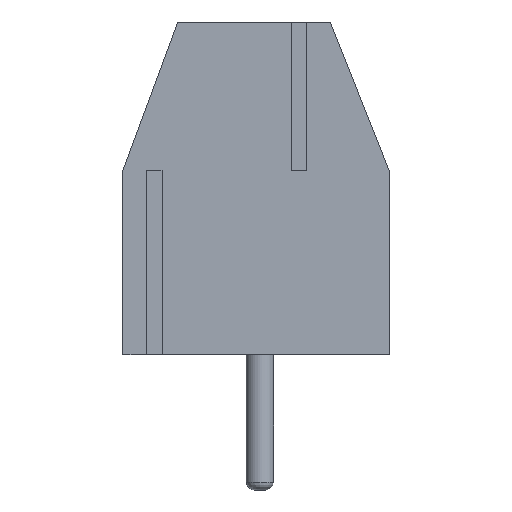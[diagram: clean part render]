
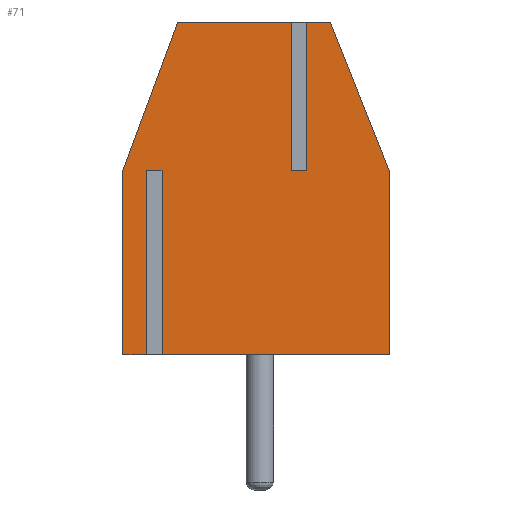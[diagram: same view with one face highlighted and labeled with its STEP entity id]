
A CAD part, left-side view. The second image highlights one B-rep face of the part: STEP entity #71.
In plain terms, the highlighted planar face has unit normal (-1, 0, 0).
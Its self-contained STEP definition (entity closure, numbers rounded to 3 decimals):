
#71 = ADVANCED_FACE('',(#72),#186,.F.);
#72 = FACE_BOUND('',#73,.F.);
#73 = EDGE_LOOP('',(#74,#84,#92,#100,#108,#116,#124,#132,#140,#148,#156,
    #164,#172,#180));
#74 = ORIENTED_EDGE('',*,*,#75,.T.);
#75 = EDGE_CURVE('',#76,#78,#80,.T.);
#76 = VERTEX_POINT('',#77);
#77 = CARTESIAN_POINT('',(0.,-1.8,8.5));
#78 = VERTEX_POINT('',#79);
#79 = CARTESIAN_POINT('',(0.,-3.3,4.7));
#80 = LINE('',#81,#82);
#81 = CARTESIAN_POINT('',(0.,-1.8,8.5));
#82 = VECTOR('',#83,1.);
#83 = DIRECTION('',(0.,-0.367,-0.93));
#84 = ORIENTED_EDGE('',*,*,#85,.T.);
#85 = EDGE_CURVE('',#78,#86,#88,.T.);
#86 = VERTEX_POINT('',#87);
#87 = CARTESIAN_POINT('',(0.,-3.3,0.));
#88 = LINE('',#89,#90);
#89 = CARTESIAN_POINT('',(0.,-3.3,4.7));
#90 = VECTOR('',#91,1.);
#91 = DIRECTION('',(0.,0.,-1.));
#92 = ORIENTED_EDGE('',*,*,#93,.T.);
#93 = EDGE_CURVE('',#86,#94,#96,.T.);
#94 = VERTEX_POINT('',#95);
#95 = CARTESIAN_POINT('',(0.,2.5,0.));
#96 = LINE('',#97,#98);
#97 = CARTESIAN_POINT('',(0.,-3.3,0.));
#98 = VECTOR('',#99,1.);
#99 = DIRECTION('',(0.,1.,0.));
#100 = ORIENTED_EDGE('',*,*,#101,.F.);
#101 = EDGE_CURVE('',#102,#94,#104,.T.);
#102 = VERTEX_POINT('',#103);
#103 = CARTESIAN_POINT('',(0.,2.5,4.7));
#104 = LINE('',#105,#106);
#105 = CARTESIAN_POINT('',(0.,2.5,4.7));
#106 = VECTOR('',#107,1.);
#107 = DIRECTION('',(-0.,-0.,-1.));
#108 = ORIENTED_EDGE('',*,*,#109,.T.);
#109 = EDGE_CURVE('',#102,#110,#112,.T.);
#110 = VERTEX_POINT('',#111);
#111 = CARTESIAN_POINT('',(0.,2.9,4.7));
#112 = LINE('',#113,#114);
#113 = CARTESIAN_POINT('',(0.,2.5,4.7));
#114 = VECTOR('',#115,1.);
#115 = DIRECTION('',(0.,1.,0.));
#116 = ORIENTED_EDGE('',*,*,#117,.T.);
#117 = EDGE_CURVE('',#110,#118,#120,.T.);
#118 = VERTEX_POINT('',#119);
#119 = CARTESIAN_POINT('',(0.,2.9,0.));
#120 = LINE('',#121,#122);
#121 = CARTESIAN_POINT('',(0.,2.9,4.7));
#122 = VECTOR('',#123,1.);
#123 = DIRECTION('',(-0.,-0.,-1.));
#124 = ORIENTED_EDGE('',*,*,#125,.T.);
#125 = EDGE_CURVE('',#118,#126,#128,.T.);
#126 = VERTEX_POINT('',#127);
#127 = CARTESIAN_POINT('',(0.,3.5,0.));
#128 = LINE('',#129,#130);
#129 = CARTESIAN_POINT('',(0.,-3.3,0.));
#130 = VECTOR('',#131,1.);
#131 = DIRECTION('',(0.,1.,0.));
#132 = ORIENTED_EDGE('',*,*,#133,.T.);
#133 = EDGE_CURVE('',#126,#134,#136,.T.);
#134 = VERTEX_POINT('',#135);
#135 = CARTESIAN_POINT('',(0.,3.5,4.7));
#136 = LINE('',#137,#138);
#137 = CARTESIAN_POINT('',(0.,3.5,0.));
#138 = VECTOR('',#139,1.);
#139 = DIRECTION('',(0.,0.,1.));
#140 = ORIENTED_EDGE('',*,*,#141,.T.);
#141 = EDGE_CURVE('',#134,#142,#144,.T.);
#142 = VERTEX_POINT('',#143);
#143 = CARTESIAN_POINT('',(0.,2.1,8.5));
#144 = LINE('',#145,#146);
#145 = CARTESIAN_POINT('',(0.,3.5,4.7));
#146 = VECTOR('',#147,1.);
#147 = DIRECTION('',(0.,-0.346,0.938));
#148 = ORIENTED_EDGE('',*,*,#149,.T.);
#149 = EDGE_CURVE('',#142,#150,#152,.T.);
#150 = VERTEX_POINT('',#151);
#151 = CARTESIAN_POINT('',(0.,-0.87,8.5));
#152 = LINE('',#153,#154);
#153 = CARTESIAN_POINT('',(0.,2.1,8.5));
#154 = VECTOR('',#155,1.);
#155 = DIRECTION('',(0.,-1.,0.));
#156 = ORIENTED_EDGE('',*,*,#157,.F.);
#157 = EDGE_CURVE('',#158,#150,#160,.T.);
#158 = VERTEX_POINT('',#159);
#159 = CARTESIAN_POINT('',(0.,-0.87,4.7));
#160 = LINE('',#161,#162);
#161 = CARTESIAN_POINT('',(0.,-0.87,4.7));
#162 = VECTOR('',#163,1.);
#163 = DIRECTION('',(0.,0.,1.));
#164 = ORIENTED_EDGE('',*,*,#165,.F.);
#165 = EDGE_CURVE('',#166,#158,#168,.T.);
#166 = VERTEX_POINT('',#167);
#167 = CARTESIAN_POINT('',(0.,-1.13,4.7));
#168 = LINE('',#169,#170);
#169 = CARTESIAN_POINT('',(0.,-1.13,4.7));
#170 = VECTOR('',#171,1.);
#171 = DIRECTION('',(0.,1.,0.));
#172 = ORIENTED_EDGE('',*,*,#173,.T.);
#173 = EDGE_CURVE('',#166,#174,#176,.T.);
#174 = VERTEX_POINT('',#175);
#175 = CARTESIAN_POINT('',(0.,-1.13,8.5));
#176 = LINE('',#177,#178);
#177 = CARTESIAN_POINT('',(0.,-1.13,4.7));
#178 = VECTOR('',#179,1.);
#179 = DIRECTION('',(0.,0.,1.));
#180 = ORIENTED_EDGE('',*,*,#181,.T.);
#181 = EDGE_CURVE('',#174,#76,#182,.T.);
#182 = LINE('',#183,#184);
#183 = CARTESIAN_POINT('',(0.,2.1,8.5));
#184 = VECTOR('',#185,1.);
#185 = DIRECTION('',(0.,-1.,0.));
#186 = PLANE('',#187);
#187 = AXIS2_PLACEMENT_3D('',#188,#189,#190);
#188 = CARTESIAN_POINT('',(0.,0.111,3.858));
#189 = DIRECTION('',(1.,0.,0.));
#190 = DIRECTION('',(0.,0.,1.));
